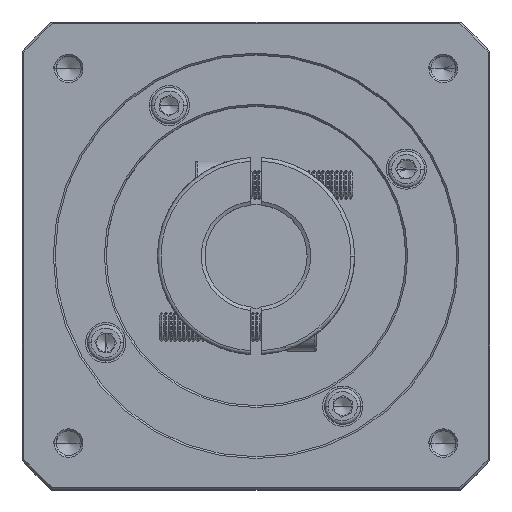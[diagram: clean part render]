
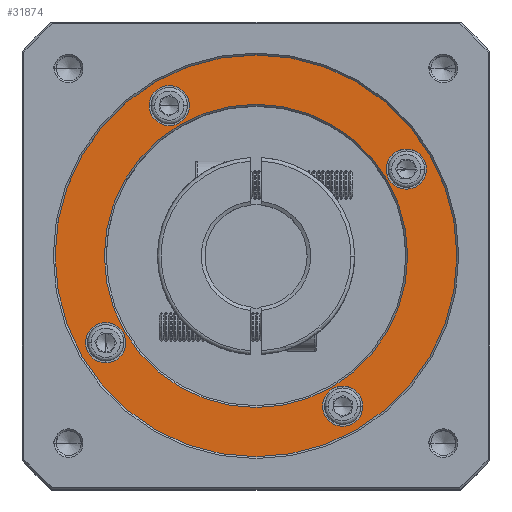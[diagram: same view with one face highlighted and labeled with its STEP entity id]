
A CAD part, top view. The second image highlights one B-rep face of the part: STEP entity #31874.
In plain terms, the highlighted planar face has unit normal (0, 0, 1).
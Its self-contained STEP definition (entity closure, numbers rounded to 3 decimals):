
#1755 = ORIENTED_EDGE ( 'NONE', *, *, #34269, .T. ) ;
#2593 = EDGE_CURVE ( 'NONE', #55436, #105433, #19069, .T. ) ;
#5685 = ORIENTED_EDGE ( 'NONE', *, *, #102525, .T. ) ;
#7659 = EDGE_LOOP ( 'NONE', ( #46643, #20737 ) ) ;
#8859 = DIRECTION ( 'NONE',  ( 1., 0., 0. ) ) ;
#9284 = DIRECTION ( 'NONE',  ( 0., 0., 1. ) ) ;
#9471 = DIRECTION ( 'NONE',  ( 0., 0., -1. ) ) ;
#10353 = ORIENTED_EDGE ( 'NONE', *, *, #24593, .T. ) ;
#11289 = CIRCLE ( 'NONE', #90286, 5.5 ) ;
#11461 = DIRECTION ( 'NONE',  ( 0., 0., -1. ) ) ;
#13102 = CIRCLE ( 'NONE', #67928, 5.5 ) ;
#15433 = CARTESIAN_POINT ( 'NONE',  ( 91.618, 159.927, 47.529 ) ) ;
#17377 = FACE_OUTER_BOUND ( 'NONE', #118976, .T. ) ;
#18353 = PLANE ( 'NONE',  #35083 ) ;
#19069 = CIRCLE ( 'NONE', #58726, 5.5 ) ;
#19077 = VERTEX_POINT ( 'NONE', #83967 ) ;
#20737 = ORIENTED_EDGE ( 'NONE', *, *, #91200, .T. ) ;
#22524 = EDGE_CURVE ( 'NONE', #51558, #41082, #45165, .T. ) ;
#23491 = DIRECTION ( 'NONE',  ( 0., 0., -1. ) ) ;
#24593 = EDGE_CURVE ( 'NONE', #41082, #51558, #115270, .T. ) ;
#26087 = CARTESIAN_POINT ( 'NONE',  ( 14.845, 112.427, 47.529 ) ) ;
#26623 = CARTESIAN_POINT ( 'NONE',  ( 74.231, 95.041, 47.529 ) ) ;
#27011 = DIRECTION ( 'NONE',  ( 0., 0., -1. ) ) ;
#27185 = CARTESIAN_POINT ( 'NONE',  ( 32.231, 177.313, 47.529 ) ) ;
#28212 = CARTESIAN_POINT ( 'NONE',  ( 55.981, 136.177, 47.529 ) ) ;
#30134 = EDGE_CURVE ( 'NONE', #80065, #121832, #84077, .T. ) ;
#31874 = ADVANCED_FACE ( 'NONE', ( #17377, #114412, #51139, #42336, #89407, #64356 ), #18353, .T. ) ;
#32614 = VERTEX_POINT ( 'NONE', #34352 ) ;
#34257 = CARTESIAN_POINT ( 'NONE',  ( 55.981, 136.177, 47.529 ) ) ;
#34269 = EDGE_CURVE ( 'NONE', #121832, #80065, #119607, .T. ) ;
#34352 = CARTESIAN_POINT ( 'NONE',  ( 37.731, 177.313, 47.529 ) ) ;
#34663 = CARTESIAN_POINT ( 'NONE',  ( 110.981, 136.177, 47.529 ) ) ;
#35083 = AXIS2_PLACEMENT_3D ( 'NONE', #65514, #9284, #74996 ) ;
#35531 = DIRECTION ( 'NONE',  ( 1., 0., 0. ) ) ;
#36619 = DIRECTION ( 'NONE',  ( 1., 0., 0. ) ) ;
#37678 = DIRECTION ( 'NONE',  ( 1., 0., 0. ) ) ;
#38637 = AXIS2_PLACEMENT_3D ( 'NONE', #27185, #92958, #36619 ) ;
#40435 = CARTESIAN_POINT ( 'NONE',  ( 85.231, 95.041, 47.529 ) ) ;
#41082 = VERTEX_POINT ( 'NONE', #15433 ) ;
#41418 = AXIS2_PLACEMENT_3D ( 'NONE', #34257, #100012, #43689 ) ;
#42336 = FACE_BOUND ( 'NONE', #7659, .T. ) ;
#42896 = ORIENTED_EDGE ( 'NONE', *, *, #56586, .T. ) ;
#42912 = ORIENTED_EDGE ( 'NONE', *, *, #91360, .T. ) ;
#43689 = DIRECTION ( 'NONE',  ( 1., 0., 0. ) ) ;
#44272 = VERTEX_POINT ( 'NONE', #73166 ) ;
#44479 = CIRCLE ( 'NONE', #41418, 41.5 ) ;
#45165 = CIRCLE ( 'NONE', #77826, 5.5 ) ;
#46466 = CARTESIAN_POINT ( 'NONE',  ( 55.981, 136.177, 47.529 ) ) ;
#46643 = ORIENTED_EDGE ( 'NONE', *, *, #77329, .T. ) ;
#50180 = EDGE_LOOP ( 'NONE', ( #42896, #90392 ) ) ;
#51139 = FACE_BOUND ( 'NONE', #94521, .T. ) ;
#51558 = VERTEX_POINT ( 'NONE', #79852 ) ;
#52565 = AXIS2_PLACEMENT_3D ( 'NONE', #26087, #91851, #35531 ) ;
#53071 = CARTESIAN_POINT ( 'NONE',  ( 14.845, 112.427, 47.529 ) ) ;
#53803 = DIRECTION ( 'NONE',  ( 0., 0., -1. ) ) ;
#54185 = ORIENTED_EDGE ( 'NONE', *, *, #22524, .T. ) ;
#55436 = VERTEX_POINT ( 'NONE', #26623 ) ;
#55865 = DIRECTION ( 'NONE',  ( 1., 0., 0. ) ) ;
#56159 = CIRCLE ( 'NONE', #38637, 5.5 ) ;
#56586 = EDGE_CURVE ( 'NONE', #105433, #55436, #119222, .T. ) ;
#58726 = AXIS2_PLACEMENT_3D ( 'NONE', #79774, #23491, #89251 ) ;
#62471 = DIRECTION ( 'NONE',  ( 1., 0., 0. ) ) ;
#64356 = FACE_BOUND ( 'NONE', #82567, .T. ) ;
#65119 = DIRECTION ( 'NONE',  ( 0., 0., 1. ) ) ;
#65514 = CARTESIAN_POINT ( 'NONE',  ( 55.981, 136.177, 47.529 ) ) ;
#65523 = CARTESIAN_POINT ( 'NONE',  ( 97.481, 136.177, 47.529 ) ) ;
#65710 = CARTESIAN_POINT ( 'NONE',  ( 97.118, 159.927, 47.529 ) ) ;
#67725 = CARTESIAN_POINT ( 'NONE',  ( 79.731, 95.041, 47.529 ) ) ;
#67928 = AXIS2_PLACEMENT_3D ( 'NONE', #53071, #118837, #62471 ) ;
#70067 = AXIS2_PLACEMENT_3D ( 'NONE', #46466, #112248, #55865 ) ;
#72976 = EDGE_LOOP ( 'NONE', ( #98562, #42912 ) ) ;
#73166 = CARTESIAN_POINT ( 'NONE',  ( 14.481, 136.177, 47.529 ) ) ;
#74996 = DIRECTION ( 'NONE',  ( 1., 0., 0. ) ) ;
#75198 = DIRECTION ( 'NONE',  ( 1., 0., 0. ) ) ;
#77206 = DIRECTION ( 'NONE',  ( 1., 0., 0. ) ) ;
#77329 = EDGE_CURVE ( 'NONE', #32614, #19077, #11289, .T. ) ;
#77336 = AXIS2_PLACEMENT_3D ( 'NONE', #121437, #65119, #8859 ) ;
#77374 = VERTEX_POINT ( 'NONE', #84911 ) ;
#77826 = AXIS2_PLACEMENT_3D ( 'NONE', #110158, #53803, #119615 ) ;
#78878 = AXIS2_PLACEMENT_3D ( 'NONE', #65710, #9471, #75198 ) ;
#79774 = CARTESIAN_POINT ( 'NONE',  ( 79.731, 95.041, 47.529 ) ) ;
#79852 = CARTESIAN_POINT ( 'NONE',  ( 102.618, 159.927, 47.529 ) ) ;
#80065 = VERTEX_POINT ( 'NONE', #34663 ) ;
#81893 = AXIS2_PLACEMENT_3D ( 'NONE', #28212, #93991, #37678 ) ;
#82567 = EDGE_LOOP ( 'NONE', ( #94796, #5685 ) ) ;
#83285 = CARTESIAN_POINT ( 'NONE',  ( 32.231, 177.313, 47.529 ) ) ;
#83967 = CARTESIAN_POINT ( 'NONE',  ( 26.731, 177.313, 47.529 ) ) ;
#84077 = CIRCLE ( 'NONE', #77336, 55. ) ;
#84911 = CARTESIAN_POINT ( 'NONE',  ( 9.345, 112.427, 47.529 ) ) ;
#86852 = EDGE_CURVE ( 'NONE', #120106, #77374, #13102, .T. ) ;
#88985 = CARTESIAN_POINT ( 'NONE',  ( 0.981, 136.177, 47.529 ) ) ;
#89251 = DIRECTION ( 'NONE',  ( 1., 0., 0. ) ) ;
#89407 = FACE_BOUND ( 'NONE', #50180, .T. ) ;
#90286 = AXIS2_PLACEMENT_3D ( 'NONE', #83285, #27011, #92772 ) ;
#90392 = ORIENTED_EDGE ( 'NONE', *, *, #2593, .T. ) ;
#91200 = EDGE_CURVE ( 'NONE', #19077, #32614, #56159, .T. ) ;
#91360 = EDGE_CURVE ( 'NONE', #44272, #115749, #94477, .T. ) ;
#91851 = DIRECTION ( 'NONE',  ( 0., 0., -1. ) ) ;
#92772 = DIRECTION ( 'NONE',  ( 1., 0., 0. ) ) ;
#92958 = DIRECTION ( 'NONE',  ( 0., 0., -1. ) ) ;
#93991 = DIRECTION ( 'NONE',  ( 0., 0., 1. ) ) ;
#94477 = CIRCLE ( 'NONE', #70067, 41.5 ) ;
#94521 = EDGE_LOOP ( 'NONE', ( #54185, #10353 ) ) ;
#94796 = ORIENTED_EDGE ( 'NONE', *, *, #86852, .T. ) ;
#95266 = ORIENTED_EDGE ( 'NONE', *, *, #30134, .T. ) ;
#98497 = CARTESIAN_POINT ( 'NONE',  ( 20.345, 112.427, 47.529 ) ) ;
#98562 = ORIENTED_EDGE ( 'NONE', *, *, #116174, .T. ) ;
#100012 = DIRECTION ( 'NONE',  ( 0., 0., -1. ) ) ;
#102525 = EDGE_CURVE ( 'NONE', #77374, #120106, #116536, .T. ) ;
#105433 = VERTEX_POINT ( 'NONE', #40435 ) ;
#110158 = CARTESIAN_POINT ( 'NONE',  ( 97.118, 159.927, 47.529 ) ) ;
#112248 = DIRECTION ( 'NONE',  ( 0., 0., -1. ) ) ;
#113425 = AXIS2_PLACEMENT_3D ( 'NONE', #67725, #11461, #77206 ) ;
#114412 = FACE_BOUND ( 'NONE', #72976, .T. ) ;
#115270 = CIRCLE ( 'NONE', #78878, 5.5 ) ;
#115749 = VERTEX_POINT ( 'NONE', #65523 ) ;
#116174 = EDGE_CURVE ( 'NONE', #115749, #44272, #44479, .T. ) ;
#116536 = CIRCLE ( 'NONE', #52565, 5.5 ) ;
#118837 = DIRECTION ( 'NONE',  ( 0., 0., -1. ) ) ;
#118976 = EDGE_LOOP ( 'NONE', ( #95266, #1755 ) ) ;
#119222 = CIRCLE ( 'NONE', #113425, 5.5 ) ;
#119607 = CIRCLE ( 'NONE', #81893, 55. ) ;
#119615 = DIRECTION ( 'NONE',  ( 1., 0., 0. ) ) ;
#120106 = VERTEX_POINT ( 'NONE', #98497 ) ;
#121437 = CARTESIAN_POINT ( 'NONE',  ( 55.981, 136.177, 47.529 ) ) ;
#121832 = VERTEX_POINT ( 'NONE', #88985 ) ;
